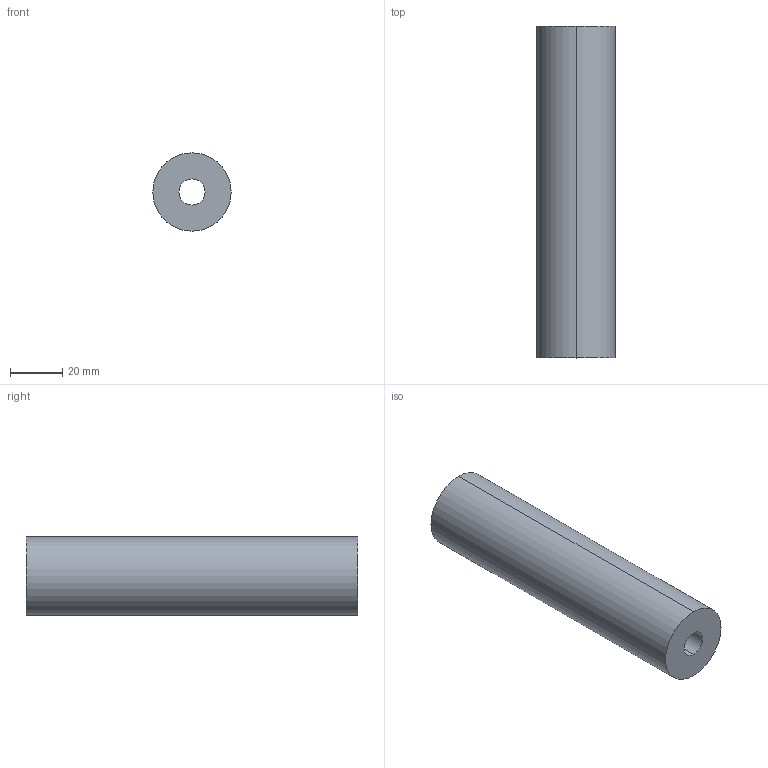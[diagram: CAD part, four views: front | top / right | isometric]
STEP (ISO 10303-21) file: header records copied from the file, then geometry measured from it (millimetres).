
FILE_DESCRIPTION (( 'STEP AP203' ), '1' );
FILE_NAME ('Entretoise.STEP', '2025-09-18T12:08:05', ( '' ), ( '' ), 'SwSTEP 2.0', 'SolidWorks 2019', '' );
FILE_SCHEMA (( 'CONFIG_CONTROL_DESIGN' ));
Length unit declared in the file: millimetre
Products named in the file (1): Entretoise
Bounding box: 30 x 127 x 30 mm (x, y, z)
Volume: 79796.5 mm3; surface area: 17215.9 mm2
Topology: 1 solids, 1 shells, 6 faces, 12 edges, 8 vertices
Faces by surface type: cylinder 4, plane 2
Entity records: 245 total; most frequent: DIRECTION 34, CARTESIAN_POINT 27, ORIENTED_EDGE 24, AXIS2_PLACEMENT_3D 15, EDGE_CURVE 12, CIRCLE 8, VERTEX_POINT 8, EDGE_LOOP 8
